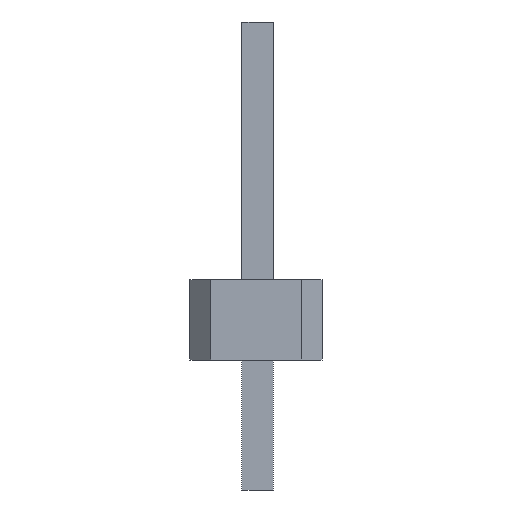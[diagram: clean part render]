
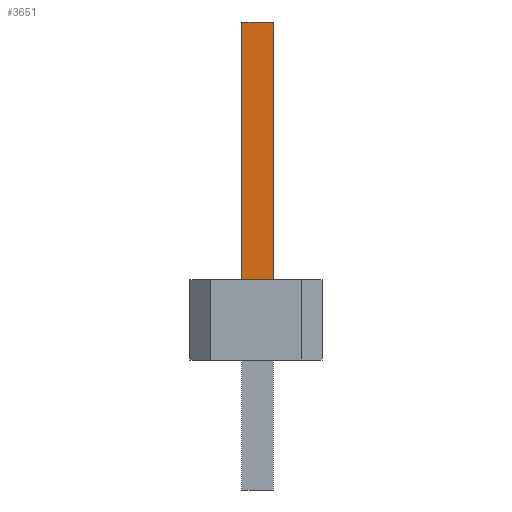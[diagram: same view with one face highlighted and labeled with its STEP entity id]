
A CAD part, front view. The second image highlights one B-rep face of the part: STEP entity #3651.
In plain terms, the highlighted planar face has unit normal (0, -1, 0).
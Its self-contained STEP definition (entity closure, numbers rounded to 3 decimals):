
#3587 = VERTEX_POINT('',#3588);
#3588 = CARTESIAN_POINT('',(-0.27,-0.27,1.54));
#3603 = VERTEX_POINT('',#3604);
#3604 = CARTESIAN_POINT('',(0.33,-0.27,1.54));
#3610 = EDGE_CURVE('',#3587,#3603,#3611,.T.);
#3611 = LINE('',#3612,#3613);
#3612 = CARTESIAN_POINT('',(-0.77,-0.27,1.54));
#3613 = VECTOR('',#3614,1.);
#3614 = DIRECTION('',(1.,0.,0.));
#3624 = EDGE_CURVE('',#3587,#3625,#3627,.T.);
#3625 = VERTEX_POINT('',#3626);
#3626 = CARTESIAN_POINT('',(-0.27,-0.27,6.5));
#3627 = LINE('',#3628,#3629);
#3628 = CARTESIAN_POINT('',(-0.27,-0.27,-2.5));
#3629 = VECTOR('',#3630,1.);
#3630 = DIRECTION('',(0.,0.,1.));
#3651 = ADVANCED_FACE('',(#3652),#3670,.F.);
#3652 = FACE_BOUND('',#3653,.F.);
#3653 = EDGE_LOOP('',(#3654,#3662,#3663,#3664));
#3654 = ORIENTED_EDGE('',*,*,#3655,.F.);
#3655 = EDGE_CURVE('',#3603,#3656,#3658,.T.);
#3656 = VERTEX_POINT('',#3657);
#3657 = CARTESIAN_POINT('',(0.33,-0.27,6.5));
#3658 = LINE('',#3659,#3660);
#3659 = CARTESIAN_POINT('',(0.33,-0.27,-2.5));
#3660 = VECTOR('',#3661,1.);
#3661 = DIRECTION('',(0.,0.,1.));
#3662 = ORIENTED_EDGE('',*,*,#3610,.F.);
#3663 = ORIENTED_EDGE('',*,*,#3624,.T.);
#3664 = ORIENTED_EDGE('',*,*,#3665,.T.);
#3665 = EDGE_CURVE('',#3625,#3656,#3666,.T.);
#3666 = LINE('',#3667,#3668);
#3667 = CARTESIAN_POINT('',(-0.27,-0.27,6.5));
#3668 = VECTOR('',#3669,1.);
#3669 = DIRECTION('',(1.,0.,0.));
#3670 = PLANE('',#3671);
#3671 = AXIS2_PLACEMENT_3D('',#3672,#3673,#3674);
#3672 = CARTESIAN_POINT('',(-0.27,-0.27,-2.5));
#3673 = DIRECTION('',(0.,1.,0.));
#3674 = DIRECTION('',(0.,-0.,1.));
